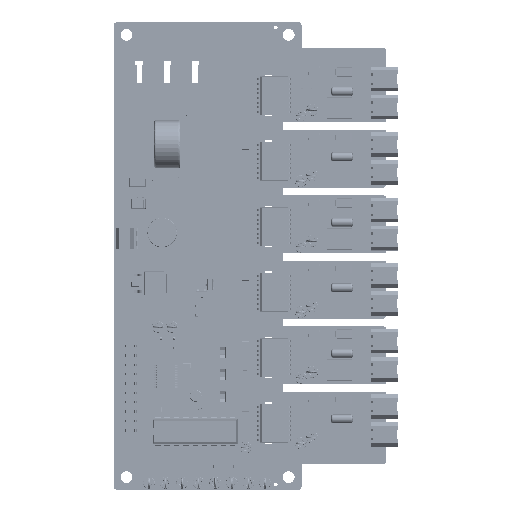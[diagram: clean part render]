
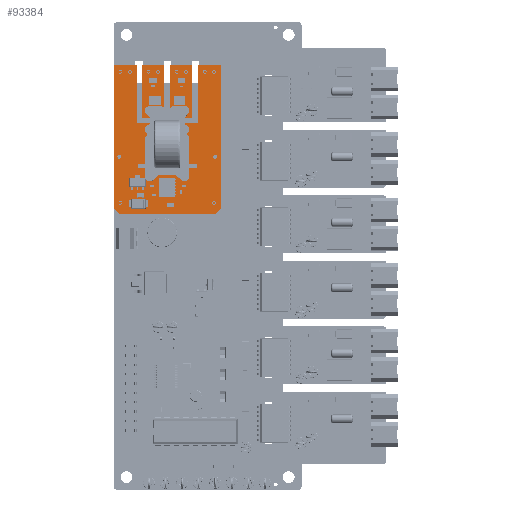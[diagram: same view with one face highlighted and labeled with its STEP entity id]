
A CAD part, top view. The second image highlights one B-rep face of the part: STEP entity #93384.
In plain terms, the highlighted planar face has unit normal (0, 0, 1).
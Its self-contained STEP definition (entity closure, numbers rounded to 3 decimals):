
#92707 = VERTEX_POINT('',#92708);
#92708 = CARTESIAN_POINT('',(7.767,11.019,0.));
#92725 = VERTEX_POINT('',#92726);
#92726 = CARTESIAN_POINT('',(9.267,12.519,0.));
#92732 = EDGE_CURVE('',#92707,#92725,#92733,.T.);
#92733 = LINE('',#92734,#92735);
#92734 = CARTESIAN_POINT('',(7.767,11.019,0.));
#92735 = VECTOR('',#92736,1.);
#92736 = DIRECTION('',(0.707,0.707,0.));
#92756 = VERTEX_POINT('',#92757);
#92757 = CARTESIAN_POINT('',(48.267,12.519,0.));
#92763 = EDGE_CURVE('',#92725,#92756,#92764,.T.);
#92764 = LINE('',#92765,#92766);
#92765 = CARTESIAN_POINT('',(9.267,12.519,0.));
#92766 = VECTOR('',#92767,1.);
#92767 = DIRECTION('',(1.,0.,0.));
#92787 = VERTEX_POINT('',#92788);
#92788 = CARTESIAN_POINT('',(48.267,6.319,0.));
#92794 = EDGE_CURVE('',#92756,#92787,#92795,.T.);
#92795 = LINE('',#92796,#92797);
#92796 = CARTESIAN_POINT('',(48.267,12.519,0.));
#92797 = VECTOR('',#92798,1.);
#92798 = DIRECTION('',(0.,-1.,0.));
#92818 = VERTEX_POINT('',#92819);
#92819 = CARTESIAN_POINT('',(32.367,6.319,0.));
#92825 = EDGE_CURVE('',#92787,#92818,#92826,.T.);
#92826 = LINE('',#92827,#92828);
#92827 = CARTESIAN_POINT('',(48.267,6.319,0.));
#92828 = VECTOR('',#92829,1.);
#92829 = DIRECTION('',(-1.,0.,0.));
#92849 = VERTEX_POINT('',#92850);
#92850 = CARTESIAN_POINT('',(32.367,1.219,0.));
#92856 = EDGE_CURVE('',#92818,#92849,#92857,.T.);
#92857 = LINE('',#92858,#92859);
#92858 = CARTESIAN_POINT('',(32.367,6.319,0.));
#92859 = VECTOR('',#92860,1.);
#92860 = DIRECTION('',(0.,-1.,0.));
#92880 = VERTEX_POINT('',#92881);
#92881 = CARTESIAN_POINT('',(33.867,1.219,0.));
#92887 = EDGE_CURVE('',#92849,#92880,#92888,.T.);
#92888 = LINE('',#92889,#92890);
#92889 = CARTESIAN_POINT('',(32.367,1.219,0.));
#92890 = VECTOR('',#92891,1.);
#92891 = DIRECTION('',(1.,0.,0.));
#92911 = VERTEX_POINT('',#92912);
#92912 = CARTESIAN_POINT('',(33.867,4.819,0.));
#92918 = EDGE_CURVE('',#92880,#92911,#92919,.T.);
#92919 = LINE('',#92920,#92921);
#92920 = CARTESIAN_POINT('',(33.867,1.219,0.));
#92921 = VECTOR('',#92922,1.);
#92922 = DIRECTION('',(0.,1.,0.));
#92942 = VERTEX_POINT('',#92943);
#92943 = CARTESIAN_POINT('',(48.267,4.819,0.));
#92949 = EDGE_CURVE('',#92911,#92942,#92950,.T.);
#92950 = LINE('',#92951,#92952);
#92951 = CARTESIAN_POINT('',(33.867,4.819,0.));
#92952 = VECTOR('',#92953,1.);
#92953 = DIRECTION('',(1.,0.,0.));
#92973 = VERTEX_POINT('',#92974);
#92974 = CARTESIAN_POINT('',(48.267,-1.231,0.));
#92980 = EDGE_CURVE('',#92942,#92973,#92981,.T.);
#92981 = LINE('',#92982,#92983);
#92982 = CARTESIAN_POINT('',(48.267,4.819,0.));
#92983 = VECTOR('',#92984,1.);
#92984 = DIRECTION('',(0.,-1.,0.));
#93004 = VERTEX_POINT('',#93005);
#93005 = CARTESIAN_POINT('',(33.767,-1.231,0.));
#93011 = EDGE_CURVE('',#92973,#93004,#93012,.T.);
#93012 = LINE('',#93013,#93014);
#93013 = CARTESIAN_POINT('',(48.267,-1.231,0.));
#93014 = VECTOR('',#93015,1.);
#93015 = DIRECTION('',(-1.,0.,0.));
#93035 = VERTEX_POINT('',#93036);
#93036 = CARTESIAN_POINT('',(33.767,-2.731,0.));
#93042 = EDGE_CURVE('',#93004,#93035,#93043,.T.);
#93043 = LINE('',#93044,#93045);
#93044 = CARTESIAN_POINT('',(33.767,-1.231,0.));
#93045 = VECTOR('',#93046,1.);
#93046 = DIRECTION('',(0.,-1.,0.));
#93066 = VERTEX_POINT('',#93067);
#93067 = CARTESIAN_POINT('',(48.267,-2.731,0.));
#93073 = EDGE_CURVE('',#93035,#93066,#93074,.T.);
#93074 = LINE('',#93075,#93076);
#93075 = CARTESIAN_POINT('',(33.767,-2.731,0.));
#93076 = VECTOR('',#93077,1.);
#93077 = DIRECTION('',(1.,0.,0.));
#93097 = VERTEX_POINT('',#93098);
#93098 = CARTESIAN_POINT('',(48.267,-8.781,0.));
#93104 = EDGE_CURVE('',#93066,#93097,#93105,.T.);
#93105 = LINE('',#93106,#93107);
#93106 = CARTESIAN_POINT('',(48.267,-2.731,0.));
#93107 = VECTOR('',#93108,1.);
#93108 = DIRECTION('',(0.,-1.,0.));
#93128 = VERTEX_POINT('',#93129);
#93129 = CARTESIAN_POINT('',(33.867,-8.781,0.));
#93135 = EDGE_CURVE('',#93097,#93128,#93136,.T.);
#93136 = LINE('',#93137,#93138);
#93137 = CARTESIAN_POINT('',(48.267,-8.781,0.));
#93138 = VECTOR('',#93139,1.);
#93139 = DIRECTION('',(-1.,0.,0.));
#93159 = VERTEX_POINT('',#93160);
#93160 = CARTESIAN_POINT('',(33.867,-5.181,0.));
#93166 = EDGE_CURVE('',#93128,#93159,#93167,.T.);
#93167 = LINE('',#93168,#93169);
#93168 = CARTESIAN_POINT('',(33.867,-8.781,0.));
#93169 = VECTOR('',#93170,1.);
#93170 = DIRECTION('',(0.,1.,0.));
#93190 = VERTEX_POINT('',#93191);
#93191 = CARTESIAN_POINT('',(32.367,-5.181,0.));
#93197 = EDGE_CURVE('',#93159,#93190,#93198,.T.);
#93198 = LINE('',#93199,#93200);
#93199 = CARTESIAN_POINT('',(33.867,-5.181,0.));
#93200 = VECTOR('',#93201,1.);
#93201 = DIRECTION('',(-1.,0.,0.));
#93221 = VERTEX_POINT('',#93222);
#93222 = CARTESIAN_POINT('',(32.367,-10.281,0.));
#93228 = EDGE_CURVE('',#93190,#93221,#93229,.T.);
#93229 = LINE('',#93230,#93231);
#93230 = CARTESIAN_POINT('',(32.367,-5.181,0.));
#93231 = VECTOR('',#93232,1.);
#93232 = DIRECTION('',(0.,-1.,0.));
#93252 = VERTEX_POINT('',#93253);
#93253 = CARTESIAN_POINT('',(48.267,-10.281,0.));
#93259 = EDGE_CURVE('',#93221,#93252,#93260,.T.);
#93260 = LINE('',#93261,#93262);
#93261 = CARTESIAN_POINT('',(32.367,-10.281,0.));
#93262 = VECTOR('',#93263,1.);
#93263 = DIRECTION('',(1.,0.,0.));
#93283 = VERTEX_POINT('',#93284);
#93284 = CARTESIAN_POINT('',(48.267,-16.481,0.));
#93290 = EDGE_CURVE('',#93252,#93283,#93291,.T.);
#93291 = LINE('',#93292,#93293);
#93292 = CARTESIAN_POINT('',(48.267,-10.281,0.));
#93293 = VECTOR('',#93294,1.);
#93294 = DIRECTION('',(0.,-1.,0.));
#93314 = VERTEX_POINT('',#93315);
#93315 = CARTESIAN_POINT('',(9.267,-16.481,0.));
#93321 = EDGE_CURVE('',#93283,#93314,#93322,.T.);
#93322 = LINE('',#93323,#93324);
#93323 = CARTESIAN_POINT('',(48.267,-16.481,0.));
#93324 = VECTOR('',#93325,1.);
#93325 = DIRECTION('',(-1.,0.,0.));
#93345 = VERTEX_POINT('',#93346);
#93346 = CARTESIAN_POINT('',(7.767,-14.981,0.));
#93352 = EDGE_CURVE('',#93314,#93345,#93353,.T.);
#93353 = LINE('',#93354,#93355);
#93354 = CARTESIAN_POINT('',(9.267,-16.481,0.));
#93355 = VECTOR('',#93356,1.);
#93356 = DIRECTION('',(-0.707,0.707,0.));
#93374 = EDGE_CURVE('',#93345,#92707,#93375,.T.);
#93375 = LINE('',#93376,#93377);
#93376 = CARTESIAN_POINT('',(7.767,-14.981,0.));
#93377 = VECTOR('',#93378,1.);
#93378 = DIRECTION('',(0.,1.,0.));
#93384 = ADVANCED_FACE('',(#93385,#93409,#93420,#93431),#93465,.T.);
#93385 = FACE_BOUND('',#93386,.F.);
#93386 = EDGE_LOOP('',(#93387,#93388,#93389,#93390,#93391,#93392,#93393,
    #93394,#93395,#93396,#93397,#93398,#93399,#93400,#93401,#93402,
    #93403,#93404,#93405,#93406,#93407,#93408));
#93387 = ORIENTED_EDGE('',*,*,#92732,.T.);
#93388 = ORIENTED_EDGE('',*,*,#92763,.T.);
#93389 = ORIENTED_EDGE('',*,*,#92794,.T.);
#93390 = ORIENTED_EDGE('',*,*,#92825,.T.);
#93391 = ORIENTED_EDGE('',*,*,#92856,.T.);
#93392 = ORIENTED_EDGE('',*,*,#92887,.T.);
#93393 = ORIENTED_EDGE('',*,*,#92918,.T.);
#93394 = ORIENTED_EDGE('',*,*,#92949,.T.);
#93395 = ORIENTED_EDGE('',*,*,#92980,.T.);
#93396 = ORIENTED_EDGE('',*,*,#93011,.T.);
#93397 = ORIENTED_EDGE('',*,*,#93042,.T.);
#93398 = ORIENTED_EDGE('',*,*,#93073,.T.);
#93399 = ORIENTED_EDGE('',*,*,#93104,.T.);
#93400 = ORIENTED_EDGE('',*,*,#93135,.T.);
#93401 = ORIENTED_EDGE('',*,*,#93166,.T.);
#93402 = ORIENTED_EDGE('',*,*,#93197,.T.);
#93403 = ORIENTED_EDGE('',*,*,#93228,.T.);
#93404 = ORIENTED_EDGE('',*,*,#93259,.T.);
#93405 = ORIENTED_EDGE('',*,*,#93290,.T.);
#93406 = ORIENTED_EDGE('',*,*,#93321,.T.);
#93407 = ORIENTED_EDGE('',*,*,#93352,.T.);
#93408 = ORIENTED_EDGE('',*,*,#93374,.T.);
#93409 = FACE_BOUND('',#93410,.T.);
#93410 = EDGE_LOOP('',(#93411));
#93411 = ORIENTED_EDGE('',*,*,#93412,.T.);
#93412 = EDGE_CURVE('',#93413,#93413,#93415,.T.);
#93413 = VERTEX_POINT('',#93414);
#93414 = CARTESIAN_POINT('',(23.792,-14.981,0.));
#93415 = CIRCLE('',#93416,0.525);
#93416 = AXIS2_PLACEMENT_3D('',#93417,#93418,#93419);
#93417 = CARTESIAN_POINT('',(23.267,-14.981,0.));
#93418 = DIRECTION('',(0.,0.,-1.));
#93419 = DIRECTION('',(1.,0.,0.));
#93420 = FACE_BOUND('',#93421,.T.);
#93421 = EDGE_LOOP('',(#93422));
#93422 = ORIENTED_EDGE('',*,*,#93423,.T.);
#93423 = EDGE_CURVE('',#93424,#93424,#93426,.T.);
#93424 = VERTEX_POINT('',#93425);
#93425 = CARTESIAN_POINT('',(23.792,11.019,0.));
#93426 = CIRCLE('',#93427,0.525);
#93427 = AXIS2_PLACEMENT_3D('',#93428,#93429,#93430);
#93428 = CARTESIAN_POINT('',(23.267,11.019,0.));
#93429 = DIRECTION('',(0.,0.,-1.));
#93430 = DIRECTION('',(1.,0.,0.));
#93431 = FACE_BOUND('',#93432,.T.);
#93432 = EDGE_LOOP('',(#93433,#93443,#93451,#93459));
#93433 = ORIENTED_EDGE('',*,*,#93434,.T.);
#93434 = EDGE_CURVE('',#93435,#93437,#93439,.T.);
#93435 = VERTEX_POINT('',#93436);
#93436 = CARTESIAN_POINT('',(20.267,6.019,0.));
#93437 = VERTEX_POINT('',#93438);
#93438 = CARTESIAN_POINT('',(21.267,6.019,0.));
#93439 = LINE('',#93440,#93441);
#93440 = CARTESIAN_POINT('',(20.267,6.019,0.));
#93441 = VECTOR('',#93442,1.);
#93442 = DIRECTION('',(1.,0.,0.));
#93443 = ORIENTED_EDGE('',*,*,#93444,.T.);
#93444 = EDGE_CURVE('',#93437,#93445,#93447,.T.);
#93445 = VERTEX_POINT('',#93446);
#93446 = CARTESIAN_POINT('',(21.267,-9.981,0.));
#93447 = LINE('',#93448,#93449);
#93448 = CARTESIAN_POINT('',(21.267,6.019,0.));
#93449 = VECTOR('',#93450,1.);
#93450 = DIRECTION('',(0.,-1.,0.));
#93451 = ORIENTED_EDGE('',*,*,#93452,.T.);
#93452 = EDGE_CURVE('',#93445,#93453,#93455,.T.);
#93453 = VERTEX_POINT('',#93454);
#93454 = CARTESIAN_POINT('',(20.267,-9.981,0.));
#93455 = LINE('',#93456,#93457);
#93456 = CARTESIAN_POINT('',(21.267,-9.981,0.));
#93457 = VECTOR('',#93458,1.);
#93458 = DIRECTION('',(-1.,0.,0.));
#93459 = ORIENTED_EDGE('',*,*,#93460,.T.);
#93460 = EDGE_CURVE('',#93453,#93435,#93461,.T.);
#93461 = LINE('',#93462,#93463);
#93462 = CARTESIAN_POINT('',(20.267,-9.981,0.));
#93463 = VECTOR('',#93464,1.);
#93464 = DIRECTION('',(0.,1.,0.));
#93465 = PLANE('',#93466);
#93466 = AXIS2_PLACEMENT_3D('',#93467,#93468,#93469);
#93467 = CARTESIAN_POINT('',(7.767,11.019,0.));
#93468 = DIRECTION('',(0.,0.,1.));
#93469 = DIRECTION('',(1.,0.,0.));
